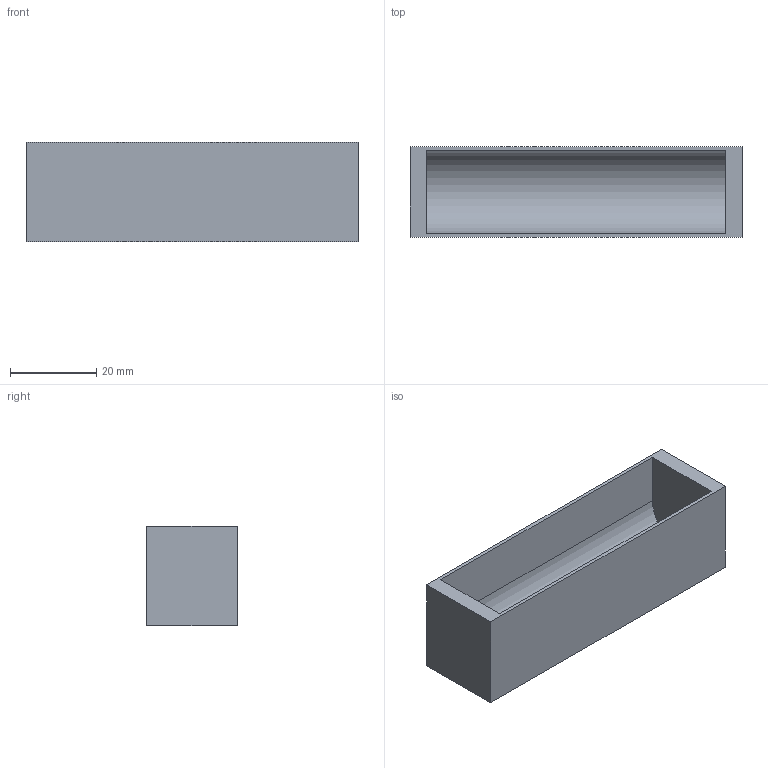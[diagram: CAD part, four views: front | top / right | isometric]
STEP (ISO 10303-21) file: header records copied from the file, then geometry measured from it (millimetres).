
FILE_DESCRIPTION(('Open CASCADE Model'),'2;1');
FILE_NAME('Open CASCADE Shape Model','2026-10-01T12:35:22',('Author'),( 'Open CASCADE'),'Open CASCADE STEP processor 7.8','Open CASCADE 7.8' ,'Unknown');
FILE_SCHEMA(('AUTOMOTIVE_DESIGN { 1 0 10303 214 1 1 1 1 }'));
Length unit declared in the file: millimetre
Products named in the file (2): E09_18650_holder_BA0039_provisional; E09_18650_holder_BA0039_provisional_solid
Assembly tree (1 placements, depth 2):
  E09_18650_holder_BA0039_provisional
    E09_18650_holder_BA0039_provisional_solid
Bounding box: 77 x 21 x 23 mm (x, y, z)
Volume: 10526.2 mm3; surface area: 10984.7 mm2
Topology: 1 solids, 1 shells, 11 faces, 24 edges, 16 vertices
Faces by surface type: plane 10, cylinder 1
Entity records: 641 total; most frequent: CARTESIAN_POINT 109, DIRECTION 92, LINE 60, VECTOR 60, ORIENTED_EDGE 48, PCURVE 48, DEFINITIONAL_REPRESENTATION 48, EDGE_CURVE 24
